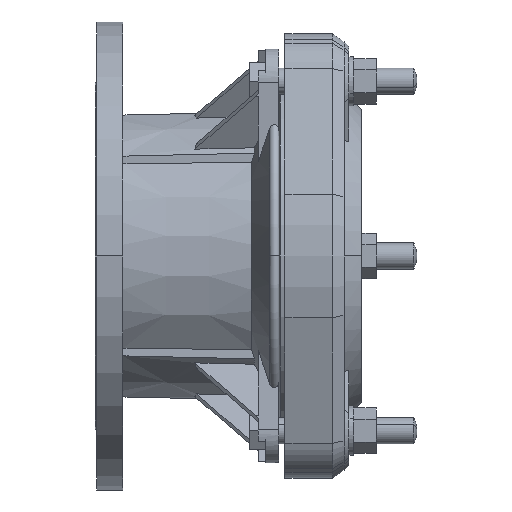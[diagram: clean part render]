
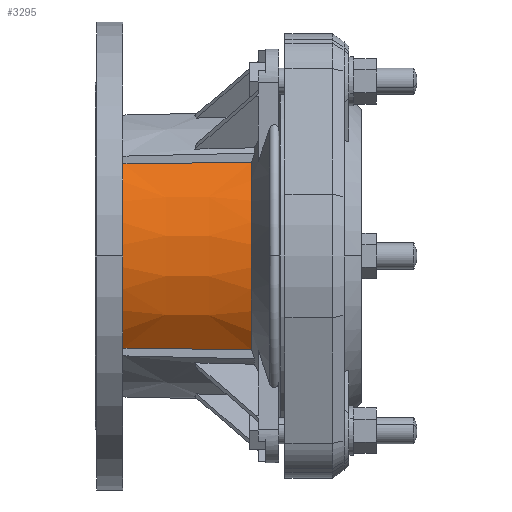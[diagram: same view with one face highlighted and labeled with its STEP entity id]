
A CAD part, left-side view. The second image highlights one B-rep face of the part: STEP entity #3295.
In plain terms, the highlighted conical face has half-angle 0.922 degrees and reference radius 85.656 mm.
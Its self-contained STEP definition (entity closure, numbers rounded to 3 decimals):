
#465=CARTESIAN_POINT('',(-64.778,-95.168,
-56.999));
#467=CARTESIAN_POINT('',(-64.778,-95.168,56.999));
#700=CARTESIAN_POINT('',(0.,-95.168,0.));
#701=DIRECTION('',(0.,-1.,0.));
#702=DIRECTION('',(-0.751,0.,0.661));
#703=AXIS2_PLACEMENT_3D('',#700,#701,#702);
#705=CARTESIAN_POINT('',(-64.778,-95.168,
-56.999));
#706=CARTESIAN_POINT('',(-64.669,-86.539,
-56.913));
#707=CARTESIAN_POINT('',(-64.449,-69.245,
-56.742));
#708=CARTESIAN_POINT('',(-64.119,-43.189,
-56.483));
#709=CARTESIAN_POINT('',(-63.898,-25.742,
-56.309));
#710=CARTESIAN_POINT('',(-63.788,-17.,-56.221));
#712=CARTESIAN_POINT('',(-63.788,-17.,56.221));
#713=CARTESIAN_POINT('',(-63.898,-25.742,56.309));
#714=CARTESIAN_POINT('',(-64.119,-43.189,56.483));
#715=CARTESIAN_POINT('',(-64.449,-69.245,56.742));
#716=CARTESIAN_POINT('',(-64.669,-86.539,56.913));
#717=CARTESIAN_POINT('',(-64.778,-95.168,56.999));
#979=CARTESIAN_POINT('',(0.,-17.,0.));
#980=DIRECTION('',(0.,-1.,0.));
#981=DIRECTION('',(-0.75,0.,0.661));
#982=AXIS2_PLACEMENT_3D('',#979,#980,#981);
#2591=VERTEX_POINT('',#467);
#2594=VERTEX_POINT('',#712);
#2644=VERTEX_POINT('',#465);
#2647=VERTEX_POINT('',#710);
#3281=CARTESIAN_POINT('',(0.,-56.084,0.));
#3282=DIRECTION('',(0.,-1.,0.));
#3283=DIRECTION('',(-0.5,0.,0.866));
#3284=AXIS2_PLACEMENT_3D('',#3281,#3282,#3283);
#3285=CONICAL_SURFACE('',#3284,85.656,0.922);
#3286=ORIENTED_EDGE('',*,*,#2975,.T.);
#3288=ORIENTED_EDGE('',*,*,#3287,.T.);
#3290=ORIENTED_EDGE('',*,*,#3289,.F.);
#3292=ORIENTED_EDGE('',*,*,#3291,.T.);
#3293=EDGE_LOOP('',(#3286,#3288,#3290,#3292));
#3294=FACE_OUTER_BOUND('',#3293,.F.);
#3295=ADVANCED_FACE('',(#3294),#3285,.T.);
#704=CIRCLE('',#703,86.285);
#711=B_SPLINE_CURVE_WITH_KNOTS('',3,(#705,#706,#707,#708,#709,#710),
.UNSPECIFIED.,.F.,.F.,(4,1,1,4),(0.,0.333,0.667,1.),
.UNSPECIFIED.);
#718=B_SPLINE_CURVE_WITH_KNOTS('',3,(#712,#713,#714,#715,#716,#717),
.UNSPECIFIED.,.F.,.F.,(4,1,1,4),(0.,0.333,0.667,1.),
.UNSPECIFIED.);
#983=CIRCLE('',#982,85.028);
#2975=EDGE_CURVE('',#2591,#2644,#704,.T.);
#3287=EDGE_CURVE('',#2644,#2647,#711,.T.);
#3289=EDGE_CURVE('',#2594,#2647,#983,.T.);
#3291=EDGE_CURVE('',#2594,#2591,#718,.T.);
